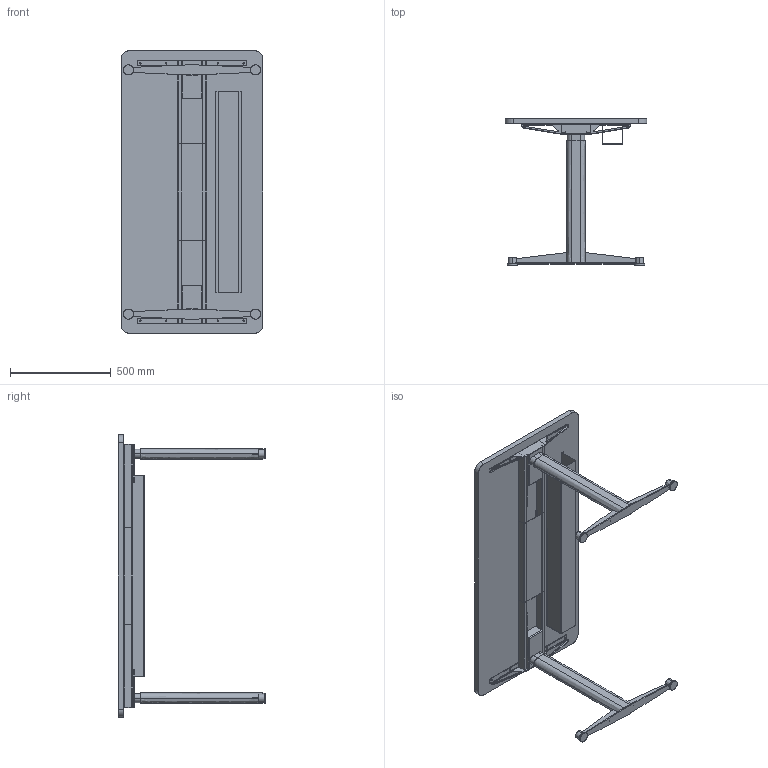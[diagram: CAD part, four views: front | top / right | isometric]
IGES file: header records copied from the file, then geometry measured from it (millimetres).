
Start section: SolidWorks IGES file using analytic representation for surfaces
Global section: file name: C:\Users\simone.cerana\OneDrive - Gruppo Tecno\Desktop\CHINA\DISEGNI DI SERIE\ASSIEMI LISTINO\AXIS LISTINO\FULL OPT\AX1407FO.IGS; native system: SolidWorks 2024; preprocessor: SolidWorks 2024; author: simone.cerana; date: 260512.104200; units: millimetre
Bounding box: 700 x 730.89 x 1400 mm (x, y, z)
Surface area: 3746875.3 mm2 (no closed solid volume)
Topology: 0 solids, 0 shells, 327 faces, 4468 edges, 4464 vertices
Faces by surface type: bspline 191, revolution 136
